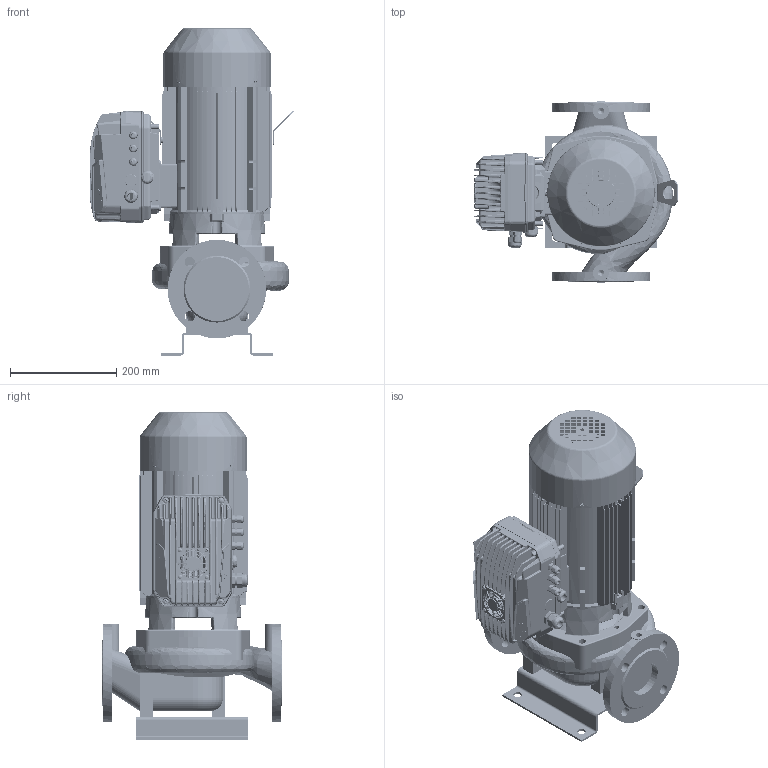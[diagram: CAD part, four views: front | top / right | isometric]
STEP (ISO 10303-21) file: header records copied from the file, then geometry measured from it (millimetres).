
FILE_DESCRIPTION(('STEP AP214'),'1');
FILE_NAME('export.stp','2022-08-29T10:37:15',(' '),(' '),'Spatial InterOp 3D',' ',' ');
FILE_SCHEMA(('AUTOMOTIVE_DESIGN { 1 0 10303 214 1 1 1 1 }'));
Length unit declared in the file: millimetre
Products named in the file (47): W_L65A4770_withou; V_TLL65AB80A1102; V_PPL65AB; V_JALKA35973; W_L65A4MDKP100; V_AdapMida205_407; 210588; DIN_7985-M5X8; 160027; 160005; V_MKP100-2_F19; 160141; 160137; 160138; 160139; 160140; Koura_Ale_M5; Plug_Blind_M20; Sealing_Plug_M20; DIN_7985-M5X12; 160060___; 160059___; 160136; 160134; MIDA_180deg; BASE_MIDA_NASTEC_89; 3005020100_AF0_157; PRT0001; PRT0002; PRT0003; PRT0005; PRT0006; PRT0007; V4-25--_-_U7687_PZ_AF0_5; V4-25--_-_U7687_PZ_AF1_5; V4-25--_-_U7687_PZ_AF2_5; V4-25--_-_U7687_PZ_AF3_5; V5-30--_-_U7687_PZ_AF0_5; V5-30--_-_U7687_PZ_AF1_5; V5-30--_-_U7687_PZ_AF2_5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
Assembly tree (51 placements, depth 4):
  W_L65A4MDKP100
    W_L65A4770_withou
      V_TLL65AB80A1102
      V_PPL65AB
      V_JALKA35973
    V_AdapMida205_407
      210588
      DIN_7985-M5X8  x2
    V_MKP100-2_F19
      160027
        160005
      160141
        160137
        160138
        160139
        160140
        Koura_Ale_M5
        Plug_Blind_M20
        Sealing_Plug_M20
        DIN_7985-M5X8
        DIN_7985-M5X12  x4
      160060___
      160059___
      160136
      160134  x2
    Mida205
      MIDA_180deg
        BASE_MIDA_NASTEC_89
        3005020100_AF0_157
        PRT0001
        PRT0002
        PRT0003
        PRT0005
        PRT0006
        PRT0007
        V4-25--_-_U7687_PZ_AF0_5
        V4-25--_-_U7687_PZ_AF1_5
        V4-25--_-_U7687_PZ_AF2_5
        V4-25--_-_U7687_PZ_AF3_5
        V5-30--_-_U7687_PZ_AF0_5
        V5-30--_-_U7687_PZ_AF1_5
        V5-30--_-_U7687_PZ_AF2_5
        V5-30--_-_U7687_PZ_5
        2001300200_32
        TASTIERA_MIDA_2_44
        ETICHETTA_MIDA_9
        TAPPO_PRESSACAVO_M20_5
Bounding box: 384.12 x 340 x 615 mm (x, y, z)
Volume: 7508394.3 mm3; surface area: 2127778.4 mm2
Topology: 43 solids, 45 shells, 6318 faces, 16433 edges, 10206 vertices
Faces by surface type: plane 2315, cylinder 1969, bspline 1364, cone 404, torus 251, sphere 15
Entity records: 319465 total; most frequent: CARTESIAN_POINT 148367, ORIENTED_EDGE 32096, DIRECTION 23222, EDGE_CURVE 16054, VERTEX_POINT 10031, AXIS2_PLACEMENT_3D 8385, EDGE_LOOP 6725, LINE 6452
